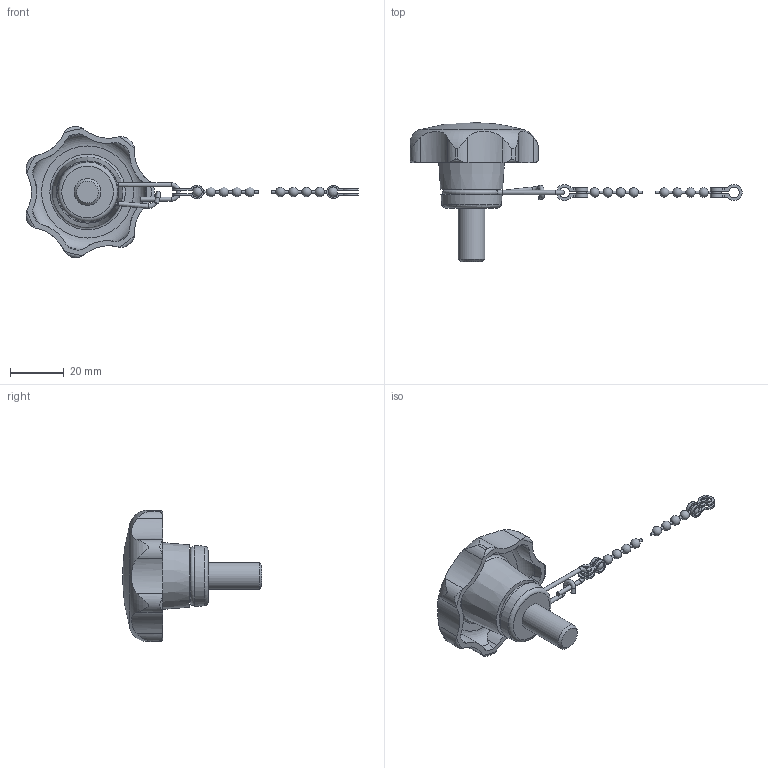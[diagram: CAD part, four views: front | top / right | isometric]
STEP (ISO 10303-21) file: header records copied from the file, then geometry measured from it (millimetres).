
FILE_DESCRIPTION( ( 'STEP AP203' ), '1' );
FILE_NAME( 'C:/Temp/Ganter_Step_05_03_2020/data/2_2/gn_6336_13/gn_6336_13_2/Star knob GN 6336.13-50-M10-20-K.stp', '2020-03-05T12:12:26', ( 'License CC BY-ND 4.0' ), ( 'CADENAS' ), ' ', 'PARTsolutions', ' ' );
FILE_SCHEMA( ( 'CONFIG_CONTROL_DESIGN' ) );
Length unit declared in the file: millimetre
Products named in the file (3): Star knob GN 6336.13-50-M10-20-K; _Star knob GN 6336.13-50-M10-20-K 6; _Star knob GN 111.5-200-14 k2
Assembly tree (2 placements, depth 2):
  Star knob GN 6336.13-50-M10-20-K
    _Star knob GN 6336.13-50-M10-20-K 6
    _Star knob GN 111.5-200-14 k2
Bounding box: 124.03 x 52 x 48.99 mm (x, y, z)
Volume: 24466.6 mm3; surface area: 9784.9 mm2
Topology: 2 solids, 2 shells, 163 faces, 466 edges, 300 vertices
Faces by surface type: cylinder 95, plane 28, torus 18, sphere 11, cone 11
Full cylindrical faces by diameter (mm): 0.9 x10, 1.6 x6, 10 x1, 18.5 x1
Entity records: 5930 total; most frequent: CARTESIAN_POINT 1831, DIRECTION 852, ORIENTED_EDGE 802, EDGE_CURVE 401, AXIS2_PLACEMENT_3D 366, VERTEX_POINT 287, EDGE_LOOP 213, CIRCLE 200
